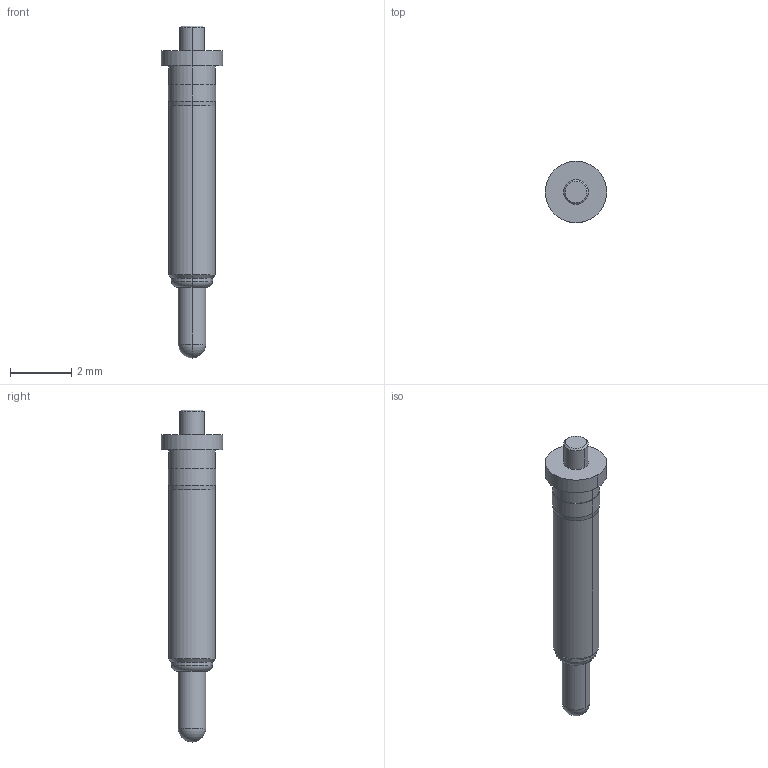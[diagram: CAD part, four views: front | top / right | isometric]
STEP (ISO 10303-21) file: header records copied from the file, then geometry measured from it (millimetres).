
FILE_DESCRIPTION((''),'2;1');
FILE_NAME('PRT0021','2023-05-26T11:30:20',('USER'),(''),'CREO PARAMETRIC BY PTC INC, 2020154','CREO PARAMETRIC BY PTC INC, 2020154','');
FILE_SCHEMA(('CONFIG_CONTROL_DESIGN'));
Length unit declared in the file: millimetre
Products named in the file (1): PRT0021
Bounding box: 2 x 2 x 10.8 mm (x, y, z)
Volume: 16 mm3; surface area: 50.6 mm2
Topology: 1 solids, 1 shells, 28 faces, 56 edges, 31 vertices
Faces by surface type: cylinder 14, cone 6, plane 4, torus 2, sphere 2
Entity records: 750 total; most frequent: DIRECTION 144, CARTESIAN_POINT 113, ORIENTED_EDGE 108, AXIS2_PLACEMENT_3D 62, EDGE_CURVE 54, CIRCLE 34, VERTEX_POINT 31, EDGE_LOOP 31
